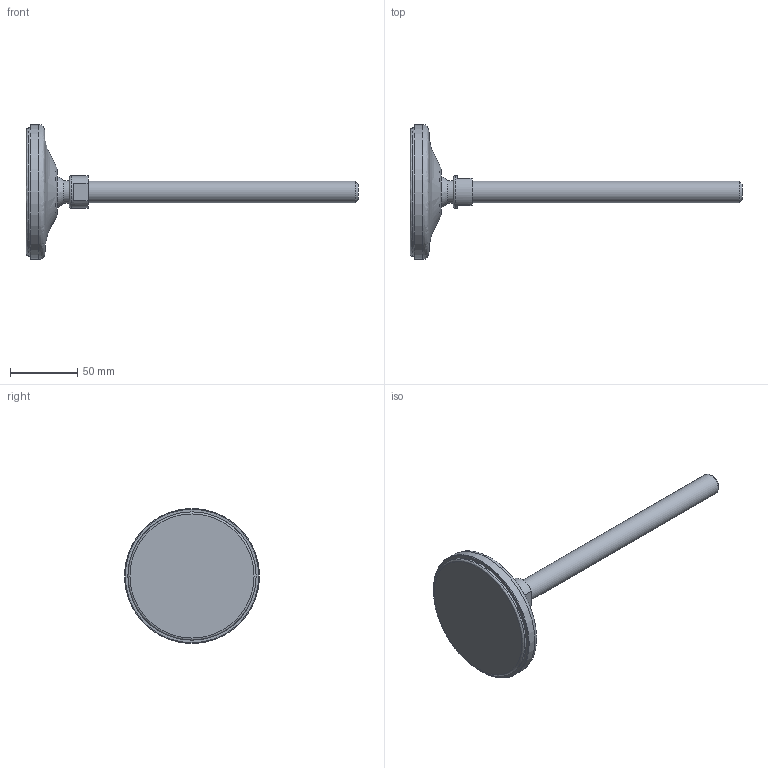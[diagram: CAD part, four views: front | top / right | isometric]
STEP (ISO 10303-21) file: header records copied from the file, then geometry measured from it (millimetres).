
FILE_DESCRIPTION(('STEP AP203'),'2;1');
FILE_NAME('10775.stp','2015-09-18T15:33:04',(''),(''),'2008.1.107','THINKDESIGN','');
FILE_SCHEMA(('CONFIG_CONTROL_DESIGN'));
Length unit declared in the file: millimetre
Bounding box: 246 x 100 x 100 mm (x, y, z)
Volume: 176771.2 mm3; surface area: 49137.8 mm2
Topology: 5 solids, 5 shells, 31 faces, 70 edges, 51 vertices
Faces by surface type: plane 16, bspline 8, cylinder 7
Full cylindrical faces by diameter (mm): 16 x1, 17 x1, 22 x1, 24 x1, 95 x2, 100 x1
Entity records: 1759 total; most frequent: CARTESIAN_POINT 933, DIRECTION 170, ORIENTED_EDGE 140, AXIS2_PLACEMENT_3D 77, EDGE_CURVE 70, CIRCLE 54, VERTEX_POINT 51, EDGE_LOOP 33
